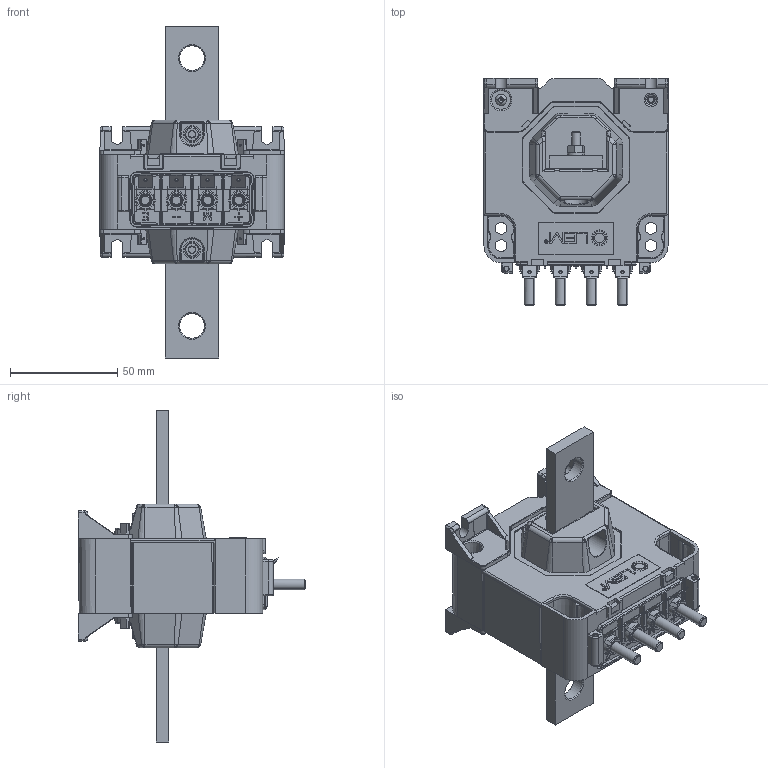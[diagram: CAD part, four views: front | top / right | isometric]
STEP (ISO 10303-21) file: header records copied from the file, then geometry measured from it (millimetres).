
FILE_DESCRIPTION(('Creo Elements/Direct Modeling STEP Export'),'2;1');
FILE_NAME('LTC 500-TF BLACKBOX.stp','2015-12-23T15:07:29',(''),(''),'PTC Creo Elements/Direct Modeling STEP processor for AP214 (Solid Model)','PTC Creo Elements/Direct Modeling 19.0B 21-Mar-2015 (C) Parametric Technology GmbH','');
FILE_SCHEMA(('AUTOMOTIVE_DESIGN { 1 0 10303 214 1 1 1 1 }'));
Products named in the file (2): LTC500-TF_Blcackbox
Assembly tree (1 placements, depth 2):
  LTC500-TF_Blcackbox
    LTC500-TF_Blcackbox
Bounding box: 86.03 x 106.02 x 155 mm (x, y, z)
Volume: 288138 mm3; surface area: 59049.7 mm2
Topology: 1 solids, 11 shells, 2262 faces, 5960 edges, 3786 vertices
Faces by surface type: plane 1139, cylinder 572, cone 193, bspline 179, extrusion 88, torus 87, sphere 4
Entity records: 95701 total; most frequent: CARTESIAN_POINT 39594, ORIENTED_EDGE 11912, DIRECTION 9428, EDGE_CURVE 5956, VERTEX_POINT 3786, VECTOR 3374, LINE 3282, AXIS2_PLACEMENT_3D 3027
